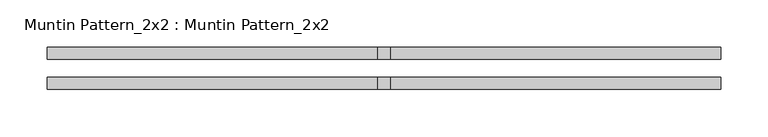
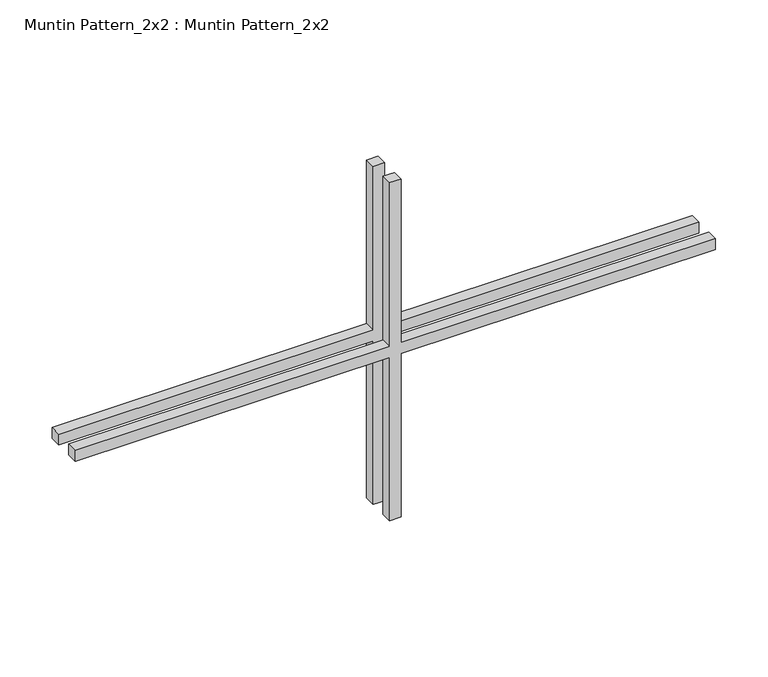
"""IFC4 building model written with IfcOpenShell, lengths in millimetres: proxy geometry, Muntin Pattern_2x2 : Muntin Pattern_2x2."""

from ifc_helpers import new_model, si_unit, frame, origin, place, context, project, spatial, polyline, outline, extrude, source, transform, mapped, element, save


def muntin_pattern_2x2_muntin_pattern_2x2_962a584f(model_context):
    return source(origin(), model_context, "Body", "SweptSolid", [
        extrude(outline(polyline([(204.7875, -6.35), (204.7875, -355.6), (192.0875, -355.6), (192.0875, -6.35), (0.0, -6.35), (0.0, 6.35), (192.0875, 6.35), (192.0875, 355.6), (204.7875, 355.6), (204.7875, 6.35), (396.875, 6.35), (396.875, -6.35), (204.7875, -6.35)])), frame((0.0, 9.525, 0.0), z_axis=(0.0, 1.0, 0.0), x_axis=(0.0, 0.0, 1.0)), (0.0, 0.0, 1.0), 12.7),
        extrude(outline(polyline([(204.7875, -6.35), (204.7875, -355.6), (192.0875, -355.6), (192.0875, -6.35), (0.0, -6.35), (0.0, 6.35), (192.0875, 6.35), (192.0875, 355.6), (204.7875, 355.6), (204.7875, 6.35), (396.875, 6.35), (396.875, -6.35), (204.7875, -6.35)])), frame((0.0, -22.225, 0.0), z_axis=(0.0, 1.0, 0.0), x_axis=(0.0, 0.0, 1.0)), (0.0, 0.0, 1.0), 12.7),
    ])


if __name__ == "__main__":
    model = new_model("IFC4")
    model_context = context("Model", 3, world=origin())
    ifc_project = project(units=[si_unit("LENGTHUNIT", "METRE", prefix="MILLI")], contexts=[model_context])
    site = spatial("IfcSite", under=ifc_project)
    building = spatial("IfcBuilding", under=site)
    placement = place(None, origin())
    muntin_pattern_2x2_muntin_pattern_2x2_shape = muntin_pattern_2x2_muntin_pattern_2x2_962a584f(model_context)
    element("IfcBuildingElementProxy", 1, Name="Muntin Pattern_2x2 : Muntin Pattern_2x2", ObjectType="Muntin Pattern_2x2 : Muntin Pattern_2x2", at=placement, inside=building, context=model_context, shape_type="MappedRepresentation", body=[
        mapped(muntin_pattern_2x2_muntin_pattern_2x2_shape, transform((0.0, 0.0, 0.0), x_axis=(1.0, 0.0, 0.0), y_axis=(0.0, 1.0, 0.0), z_axis=(0.0, 0.0, 1.0))),
    ])
    save(model, "model.ifc")
